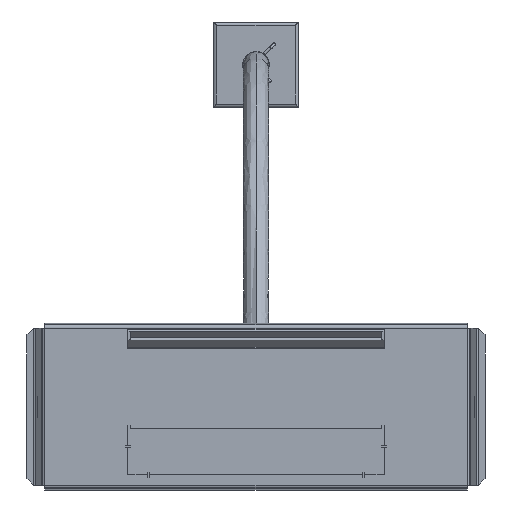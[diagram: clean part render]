
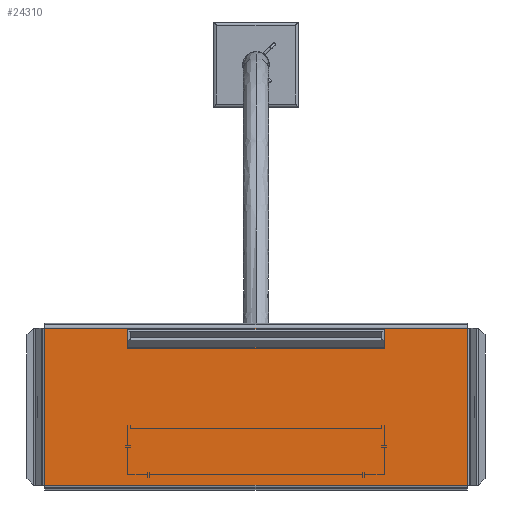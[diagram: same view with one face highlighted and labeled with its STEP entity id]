
A CAD part, front view. The second image highlights one B-rep face of the part: STEP entity #24310.
In plain terms, the highlighted planar face has unit normal (0, -1, 0).
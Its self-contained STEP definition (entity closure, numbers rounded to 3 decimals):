
#1=DIRECTION('',(-1.,0.,0.));
#2=VECTOR('',#1,0.085);
#3=CARTESIAN_POINT('',(123.585,0.,-46.017));
#4=LINE('',#3,#2);
#5=DIRECTION('',(-1.,0.,0.));
#6=VECTOR('',#5,0.085);
#7=CARTESIAN_POINT('',(-123.5,0.,-46.017));
#8=LINE('',#7,#6);
#9=DIRECTION('',(0.,0.,1.));
#10=VECTOR('',#9,0.017);
#11=CARTESIAN_POINT('',(-123.585,0.,46.));
#12=LINE('',#11,#10);
#13=DIRECTION('',(0.,0.,-1.));
#14=VECTOR('',#13,0.017);
#15=CARTESIAN_POINT('',(123.585,0.,46.017));
#16=LINE('',#15,#14);
#17=DIRECTION('',(0.,0.,1.));
#18=VECTOR('',#17,1.048);
#19=CARTESIAN_POINT('',(75.,0.,41.97));
#20=LINE('',#19,#18);
#21=DIRECTION('',(-1.,0.,0.));
#22=VECTOR('',#21,150.);
#23=CARTESIAN_POINT('',(75.,0.,43.017));
#24=LINE('',#23,#22);
#25=DIRECTION('',(0.,0.,-1.));
#26=VECTOR('',#25,1.048);
#27=CARTESIAN_POINT('',(-75.,0.,43.017));
#28=LINE('',#27,#26);
#29=DIRECTION('',(0.,0.,-1.));
#30=VECTOR('',#29,7.071);
#31=CARTESIAN_POINT('',(-75.,0.,41.97));
#32=LINE('',#31,#30);
#33=DIRECTION('',(0.,0.,1.));
#34=VECTOR('',#33,7.071);
#35=CARTESIAN_POINT('',(75.,0.,34.898));
#36=LINE('',#35,#34);
#46=DIRECTION('',(0.,0.,-1.));
#47=VECTOR('',#46,92.017);
#48=CARTESIAN_POINT('',(123.585,0.,46.));
#49=LINE('',#48,#47);
#260=DIRECTION('',(1.,0.,0.));
#261=VECTOR('',#260,247.171);
#262=CARTESIAN_POINT('',(-123.585,0.,46.017));
#263=LINE('',#262,#261);
#314=DIRECTION('',(0.,0.,1.));
#315=VECTOR('',#314,92.017);
#316=CARTESIAN_POINT('',(-123.585,0.,-46.017));
#317=LINE('',#316,#315);
#528=DIRECTION('',(-1.,0.,0.));
#529=VECTOR('',#528,247.);
#530=CARTESIAN_POINT('',(123.5,0.,-46.017));
#531=LINE('',#530,#529);
#2494=DIRECTION('',(-1.,0.,0.));
#2495=VECTOR('',#2494,150.);
#2496=CARTESIAN_POINT('',(75.,0.,34.898));
#2497=LINE('',#2496,#2495);
#22909=CARTESIAN_POINT('',(-123.5,0.,-46.017));
#22910=VERTEX_POINT('',#22909);
#22911=CARTESIAN_POINT('',(123.5,0.,-46.017));
#22912=VERTEX_POINT('',#22911);
#22929=CARTESIAN_POINT('',(-123.585,0.,46.));
#22930=VERTEX_POINT('',#22929);
#22931=CARTESIAN_POINT('',(-123.585,0.,-46.017));
#22932=VERTEX_POINT('',#22931);
#22945=CARTESIAN_POINT('',(123.585,0.,-46.017));
#22946=VERTEX_POINT('',#22945);
#22947=CARTESIAN_POINT('',(123.585,0.,46.));
#22948=VERTEX_POINT('',#22947);
#22965=CARTESIAN_POINT('',(123.585,0.,46.017));
#22966=VERTEX_POINT('',#22965);
#22967=CARTESIAN_POINT('',(-123.585,0.,46.017));
#22968=VERTEX_POINT('',#22967);
#23045=CARTESIAN_POINT('',(75.,0.,43.017));
#23046=CARTESIAN_POINT('',(-75.,0.,43.017));
#23047=VERTEX_POINT('',#23045);
#23048=VERTEX_POINT('',#23046);
#23381=CARTESIAN_POINT('',(-75.,0.,41.97));
#23382=CARTESIAN_POINT('',(-75.,0.,34.898));
#23383=VERTEX_POINT('',#23381);
#23384=VERTEX_POINT('',#23382);
#23559=CARTESIAN_POINT('',(75.,0.,34.898));
#23560=CARTESIAN_POINT('',(75.,0.,41.97));
#23561=VERTEX_POINT('',#23559);
#23562=VERTEX_POINT('',#23560);
#24273=CARTESIAN_POINT('',(-123.5,0.,46.));
#24274=DIRECTION('',(0.,-1.,0.));
#24275=DIRECTION('',(1.,0.,0.));
#24276=AXIS2_PLACEMENT_3D('',#24273,#24274,#24275);
#24277=PLANE('',#24276);
#24279=ORIENTED_EDGE('',*,*,#24278,.T.);
#24281=ORIENTED_EDGE('',*,*,#24280,.T.);
#24283=ORIENTED_EDGE('',*,*,#24282,.T.);
#24285=ORIENTED_EDGE('',*,*,#24284,.T.);
#24287=ORIENTED_EDGE('',*,*,#24286,.T.);
#24289=ORIENTED_EDGE('',*,*,#24288,.T.);
#24291=ORIENTED_EDGE('',*,*,#24290,.T.);
#24293=ORIENTED_EDGE('',*,*,#24292,.T.);
#24294=EDGE_LOOP('',(#24279,#24281,#24283,#24285,#24287,#24289,#24291,#24293));
#24295=FACE_OUTER_BOUND('',#24294,.F.);
#24297=ORIENTED_EDGE('',*,*,#24296,.T.);
#24299=ORIENTED_EDGE('',*,*,#24298,.T.);
#24301=ORIENTED_EDGE('',*,*,#24300,.T.);
#24303=ORIENTED_EDGE('',*,*,#24302,.T.);
#24305=ORIENTED_EDGE('',*,*,#24304,.F.);
#24307=ORIENTED_EDGE('',*,*,#24306,.T.);
#24308=EDGE_LOOP('',(#24297,#24299,#24301,#24303,#24305,#24307));
#24309=FACE_BOUND('',#24308,.F.);
#24310=ADVANCED_FACE('',(#24295,#24309),#24277,.T.);
#24278=EDGE_CURVE('',#22948,#22946,#49,.T.);
#24280=EDGE_CURVE('',#22946,#22912,#4,.T.);
#24282=EDGE_CURVE('',#22912,#22910,#531,.T.);
#24284=EDGE_CURVE('',#22910,#22932,#8,.T.);
#24286=EDGE_CURVE('',#22932,#22930,#317,.T.);
#24288=EDGE_CURVE('',#22930,#22968,#12,.T.);
#24290=EDGE_CURVE('',#22968,#22966,#263,.T.);
#24292=EDGE_CURVE('',#22966,#22948,#16,.T.);
#24296=EDGE_CURVE('',#23562,#23047,#20,.T.);
#24298=EDGE_CURVE('',#23047,#23048,#24,.T.);
#24300=EDGE_CURVE('',#23048,#23383,#28,.T.);
#24302=EDGE_CURVE('',#23383,#23384,#32,.T.);
#24304=EDGE_CURVE('',#23561,#23384,#2497,.T.);
#24306=EDGE_CURVE('',#23561,#23562,#36,.T.);
